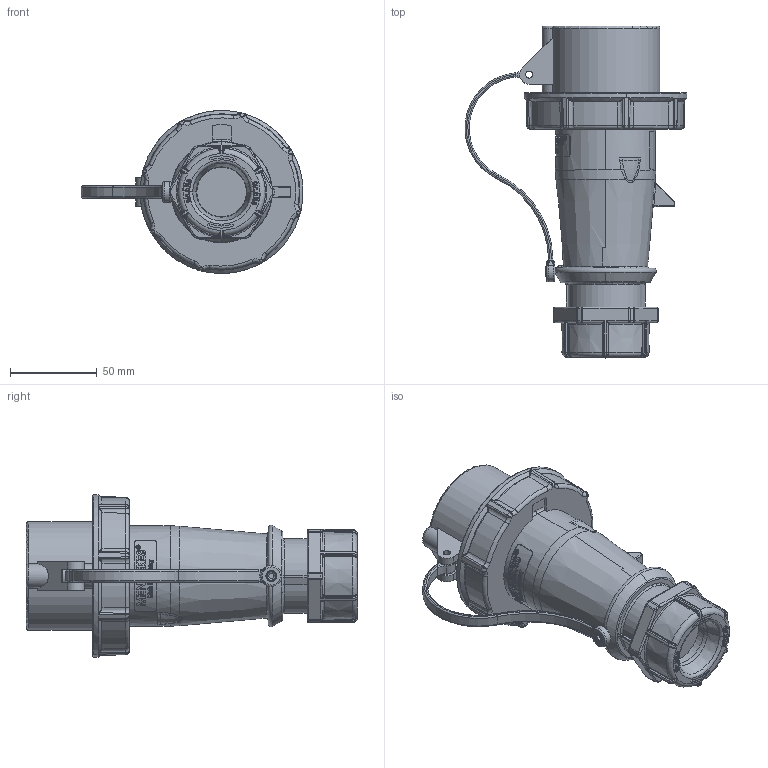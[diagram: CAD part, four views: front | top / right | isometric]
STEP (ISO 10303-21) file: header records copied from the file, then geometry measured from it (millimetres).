
FILE_DESCRIPTION((''),'2;1');
FILE_NAME('24760_SW0001','2019-01-16T',('weltickej'),('MENNEKES'),'PRO/ENGINEER BY PARAMETRIC TECHNOLOGY CORPORATION, 2015440','PRO/ENGINEER BY PARAMETRIC TECHNOLOGY CORPORATION, 2015440','');
FILE_SCHEMA(('AUTOMOTIVE_DESIGN { 1 0 10303 214 1 1 1 1 }'));
Length unit declared in the file: millimetre
Products named in the file (1): 24760_SW0001
Bounding box: 127.93 x 191.3 x 93.83 mm (x, y, z)
Volume: 539053.4 mm3; surface area: 63825.8 mm2
Topology: 2 solids, 2 shells, 1520 faces, 4006 edges, 2529 vertices
Faces by surface type: plane 744, bspline 248, cylinder 188, torus 160, extrusion 106, cone 68, sphere 6
Entity records: 75216 total; most frequent: CARTESIAN_POINT 22434, ORIENTED_EDGE 8012, DIRECTION 6252, EDGE_CURVE 4006, FILL_AREA_STYLE_COLOUR 2819, FILL_AREA_STYLE 2819, SURFACE_STYLE_FILL_AREA 2819, SURFACE_SIDE_STYLE 2819
